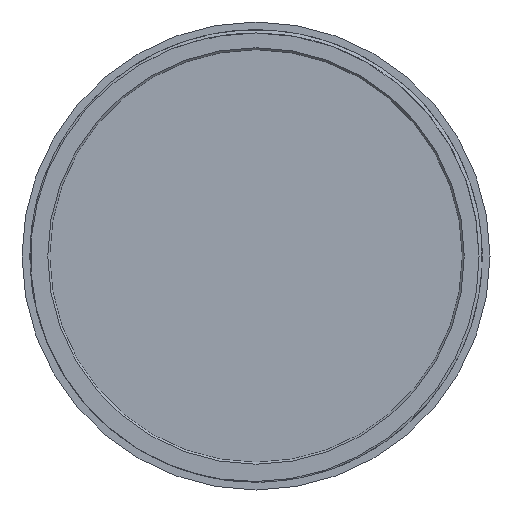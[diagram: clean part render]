
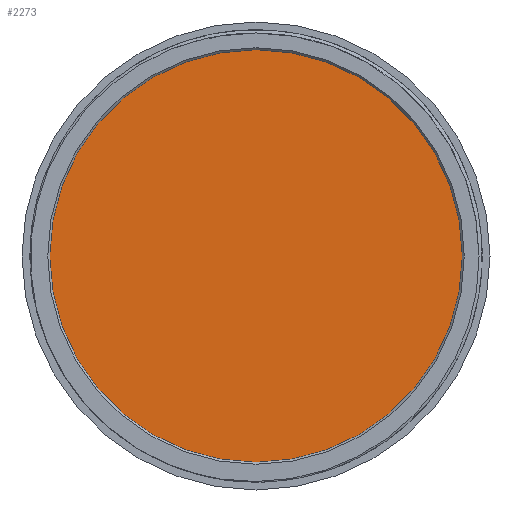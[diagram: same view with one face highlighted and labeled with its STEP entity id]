
A CAD part, front view. The second image highlights one B-rep face of the part: STEP entity #2273.
In plain terms, the highlighted planar face has unit normal (0, -1, 0).
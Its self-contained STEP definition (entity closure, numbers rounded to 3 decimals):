
#50 = VERTEX_POINT ( 'NONE', #505 ) ;
#187 = EDGE_LOOP ( 'NONE', ( #1573, #1864 ) ) ;
#208 = AXIS2_PLACEMENT_3D ( 'NONE', #2847, #1940, #799 ) ;
#352 = AXIS2_PLACEMENT_3D ( 'NONE', #2688, #1833, #2003 ) ;
#369 = FACE_OUTER_BOUND ( 'NONE', #187, .T. ) ;
#505 = CARTESIAN_POINT ( 'NONE',  ( 0., 2.5, -27.2 ) ) ;
#584 = EDGE_CURVE ( 'NONE', #50, #1521, #2269, .T. ) ;
#600 = DIRECTION ( 'NONE',  ( 0., 0., 1. ) ) ;
#799 = DIRECTION ( 'NONE',  ( 0., 0., 1. ) ) ;
#808 = CIRCLE ( 'NONE', #208, 27.2 ) ;
#1268 = CARTESIAN_POINT ( 'NONE',  ( 0., 2.5, 0. ) ) ;
#1403 = EDGE_CURVE ( 'NONE', #1521, #50, #808, .T. ) ;
#1417 = AXIS2_PLACEMENT_3D ( 'NONE', #1268, #2357, #600 ) ;
#1521 = VERTEX_POINT ( 'NONE', #2030 ) ;
#1573 = ORIENTED_EDGE ( 'NONE', *, *, #584, .F. ) ;
#1833 = DIRECTION ( 'NONE',  ( 0., 1., 0. ) ) ;
#1864 = ORIENTED_EDGE ( 'NONE', *, *, #1403, .F. ) ;
#1940 = DIRECTION ( 'NONE',  ( 0., 1., 0. ) ) ;
#2003 = DIRECTION ( 'NONE',  ( 0., 0., 1. ) ) ;
#2030 = CARTESIAN_POINT ( 'NONE',  ( 0., 2.5, 27.2 ) ) ;
#2269 = CIRCLE ( 'NONE', #352, 27.2 ) ;
#2273 = ADVANCED_FACE ( 'NONE', ( #369 ), #2609, .F. ) ;
#2357 = DIRECTION ( 'NONE',  ( 0., 1., 0. ) ) ;
#2609 = PLANE ( 'NONE',  #1417 ) ;
#2688 = CARTESIAN_POINT ( 'NONE',  ( 0., 2.5, 0. ) ) ;
#2847 = CARTESIAN_POINT ( 'NONE',  ( 0., 2.5, 0. ) ) ;
